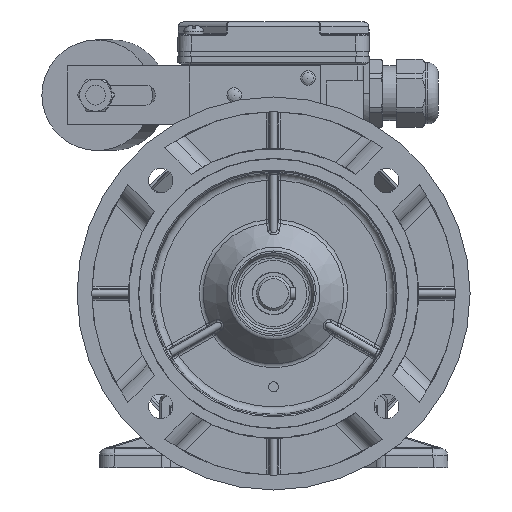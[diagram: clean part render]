
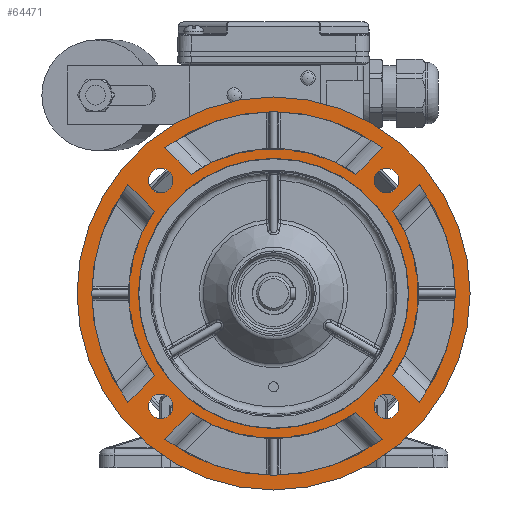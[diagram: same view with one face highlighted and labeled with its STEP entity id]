
A CAD part, front view. The second image highlights one B-rep face of the part: STEP entity #64471.
In plain terms, the highlighted planar face has unit normal (0, -1, 0).
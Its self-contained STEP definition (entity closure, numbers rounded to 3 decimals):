
#2419=CIRCLE('',#68260,59.);
#2420=CIRCLE('',#68263,74.);
#2421=CIRCLE('',#68266,59.);
#2422=CIRCLE('',#68269,74.);
#2423=CIRCLE('',#68271,55.);
#2424=CIRCLE('',#68274,59.);
#2425=CIRCLE('',#68277,74.);
#2426=CIRCLE('',#68279,59.);
#2427=CIRCLE('',#68282,74.);
#2445=CIRCLE('',#68348,80.);
#2446=CIRCLE('',#68350,5.);
#2447=CIRCLE('',#68351,5.);
#2448=CIRCLE('',#68352,5.);
#2449=CIRCLE('',#68353,5.);
#5630=LINE('',#96945,#8617);
#5631=LINE('',#96959,#8618);
#5632=LINE('',#96968,#8619);
#5633=LINE('',#96987,#8620);
#5634=LINE('',#96999,#8621);
#5635=LINE('',#97013,#8622);
#5636=LINE('',#97039,#8623);
#5637=LINE('',#97048,#8624);
#8617=VECTOR('',#77261,1000.);
#8618=VECTOR('',#77268,1000.);
#8619=VECTOR('',#77275,1000.);
#8620=VECTOR('',#77282,1000.);
#8621=VECTOR('',#77293,1000.);
#8622=VECTOR('',#77300,1000.);
#8623=VECTOR('',#77311,1000.);
#8624=VECTOR('',#77318,1000.);
#10525=PLANE('',#68349);
#19005=ORIENTED_EDGE('',*,*,#28819,.F.);
#19006=ORIENTED_EDGE('',*,*,#28820,.F.);
#19007=ORIENTED_EDGE('',*,*,#28821,.F.);
#19008=ORIENTED_EDGE('',*,*,#28822,.F.);
#19009=ORIENTED_EDGE('',*,*,#28736,.F.);
#19010=ORIENTED_EDGE('',*,*,#28734,.F.);
#19011=ORIENTED_EDGE('',*,*,#28733,.T.);
#19012=ORIENTED_EDGE('',*,*,#28730,.T.);
#19013=ORIENTED_EDGE('',*,*,#28728,.F.);
#19014=ORIENTED_EDGE('',*,*,#28726,.T.);
#19015=ORIENTED_EDGE('',*,*,#28724,.T.);
#19016=ORIENTED_EDGE('',*,*,#28722,.F.);
#19017=ORIENTED_EDGE('',*,*,#28720,.F.);
#19018=ORIENTED_EDGE('',*,*,#28719,.F.);
#19019=ORIENTED_EDGE('',*,*,#28718,.T.);
#19020=ORIENTED_EDGE('',*,*,#28715,.T.);
#19021=ORIENTED_EDGE('',*,*,#28713,.F.);
#19022=ORIENTED_EDGE('',*,*,#28711,.F.);
#19023=ORIENTED_EDGE('',*,*,#28710,.T.);
#19024=ORIENTED_EDGE('',*,*,#28707,.T.);
#19025=ORIENTED_EDGE('',*,*,#28706,.F.);
#19026=ORIENTED_EDGE('',*,*,#28818,.T.);
#28706=EDGE_CURVE('',#34254,#34253,#5630,.T.);
#28707=EDGE_CURVE('',#34255,#34253,#2419,.T.);
#28710=EDGE_CURVE('',#34256,#34255,#5631,.T.);
#28711=EDGE_CURVE('',#34256,#34254,#2420,.T.);
#28713=EDGE_CURVE('',#34257,#34258,#5632,.T.);
#28715=EDGE_CURVE('',#34259,#34258,#2421,.T.);
#28718=EDGE_CURVE('',#34260,#34259,#5633,.T.);
#28719=EDGE_CURVE('',#34260,#34257,#2422,.T.);
#28720=EDGE_CURVE('',#34261,#34261,#2423,.T.);
#28722=EDGE_CURVE('',#34262,#34263,#5634,.T.);
#28724=EDGE_CURVE('',#34264,#34263,#2424,.T.);
#28726=EDGE_CURVE('',#34265,#34264,#5635,.T.);
#28728=EDGE_CURVE('',#34265,#34262,#2425,.T.);
#28730=EDGE_CURVE('',#34267,#34266,#2426,.T.);
#28733=EDGE_CURVE('',#34268,#34267,#5636,.T.);
#28734=EDGE_CURVE('',#34268,#34269,#2427,.T.);
#28736=EDGE_CURVE('',#34269,#34266,#5637,.T.);
#28818=EDGE_CURVE('',#34327,#34327,#2445,.T.);
#28819=EDGE_CURVE('',#34328,#34328,#2446,.T.);
#28820=EDGE_CURVE('',#34329,#34329,#2447,.T.);
#28821=EDGE_CURVE('',#34330,#34330,#2448,.T.);
#28822=EDGE_CURVE('',#34331,#34331,#2449,.T.);
#34253=VERTEX_POINT('',#96939);
#34254=VERTEX_POINT('',#96944);
#34255=VERTEX_POINT('',#96948);
#34256=VERTEX_POINT('',#96958);
#34257=VERTEX_POINT('',#96967);
#34258=VERTEX_POINT('',#96969);
#34259=VERTEX_POINT('',#96976);
#34260=VERTEX_POINT('',#96986);
#34261=VERTEX_POINT('',#96992);
#34262=VERTEX_POINT('',#96998);
#34263=VERTEX_POINT('',#97000);
#34264=VERTEX_POINT('',#97007);
#34265=VERTEX_POINT('',#97014);
#34266=VERTEX_POINT('',#97026);
#34267=VERTEX_POINT('',#97028);
#34268=VERTEX_POINT('',#97038);
#34269=VERTEX_POINT('',#97042);
#34327=VERTEX_POINT('',#97341);
#34328=VERTEX_POINT('',#97344);
#34329=VERTEX_POINT('',#97346);
#34330=VERTEX_POINT('',#97348);
#34331=VERTEX_POINT('',#97350);
#39585=EDGE_LOOP('',(#19005));
#39586=EDGE_LOOP('',(#19006));
#39587=EDGE_LOOP('',(#19007));
#39588=EDGE_LOOP('',(#19008));
#39589=EDGE_LOOP('',(#19009,#19010,#19011,#19012));
#39590=EDGE_LOOP('',(#19013,#19014,#19015,#19016));
#39591=EDGE_LOOP('',(#19017));
#39592=EDGE_LOOP('',(#19018,#19019,#19020,#19021));
#39593=EDGE_LOOP('',(#19022,#19023,#19024,#19025));
#39594=EDGE_LOOP('',(#19026));
#42747=FACE_BOUND('',#39585,.T.);
#42748=FACE_BOUND('',#39586,.T.);
#42749=FACE_BOUND('',#39587,.T.);
#42750=FACE_BOUND('',#39588,.T.);
#42751=FACE_BOUND('',#39589,.T.);
#42752=FACE_BOUND('',#39590,.T.);
#42753=FACE_BOUND('',#39591,.T.);
#42754=FACE_BOUND('',#39592,.T.);
#42755=FACE_BOUND('',#39593,.T.);
#42756=FACE_BOUND('',#39594,.T.);
#64471=ADVANCED_FACE('',(#42747,#42748,#42749,#42750,#42751,#42752,#42753,
#42754,#42755,#42756),#10525,.F.);
#68260=AXIS2_PLACEMENT_3D('',#96947,#77264,#77265);
#68263=AXIS2_PLACEMENT_3D('',#96961,#77271,#77272);
#68266=AXIS2_PLACEMENT_3D('',#96975,#77278,#77279);
#68269=AXIS2_PLACEMENT_3D('',#96989,#77285,#77286);
#68271=AXIS2_PLACEMENT_3D('',#96991,#77289,#77290);
#68274=AXIS2_PLACEMENT_3D('',#97006,#77296,#77297);
#68277=AXIS2_PLACEMENT_3D('',#97020,#77303,#77304);
#68279=AXIS2_PLACEMENT_3D('',#97027,#77307,#77308);
#68282=AXIS2_PLACEMENT_3D('',#97041,#77314,#77315);
#68348=AXIS2_PLACEMENT_3D('',#97340,#77473,#77474);
#68349=AXIS2_PLACEMENT_3D('',#97342,#77475,#77476);
#68350=AXIS2_PLACEMENT_3D('',#97343,#77477,#77478);
#68351=AXIS2_PLACEMENT_3D('',#97345,#77479,#77480);
#68352=AXIS2_PLACEMENT_3D('',#97347,#77481,#77482);
#68353=AXIS2_PLACEMENT_3D('',#97349,#77483,#77484);
#77261=DIRECTION('',(-0.707,0.,-0.707));
#77264=DIRECTION('',(0.,-1.,0.));
#77265=DIRECTION('',(0.,0.,-1.));
#77268=DIRECTION('',(-0.707,0.,0.707));
#77271=DIRECTION('',(0.,-1.,0.));
#77272=DIRECTION('',(0.,0.,-1.));
#77275=DIRECTION('',(-0.707,0.,0.707));
#77278=DIRECTION('',(0.,-1.,0.));
#77279=DIRECTION('',(0.,0.,-1.));
#77282=DIRECTION('',(0.707,0.,0.707));
#77285=DIRECTION('',(0.,-1.,0.));
#77286=DIRECTION('',(0.,0.,-1.));
#77289=DIRECTION('',(0.,-1.,0.));
#77290=DIRECTION('',(0.,0.,-1.));
#77293=DIRECTION('',(0.707,0.,0.707));
#77296=DIRECTION('',(0.,-1.,0.));
#77297=DIRECTION('',(0.,0.,-1.));
#77300=DIRECTION('',(0.707,0.,-0.707));
#77303=DIRECTION('',(0.,-1.,0.));
#77304=DIRECTION('',(0.,0.,-1.));
#77307=DIRECTION('',(0.,-1.,0.));
#77308=DIRECTION('',(0.,0.,-1.));
#77311=DIRECTION('',(-0.707,0.,-0.707));
#77314=DIRECTION('',(0.,-1.,0.));
#77315=DIRECTION('',(0.,0.,-1.));
#77318=DIRECTION('',(0.707,0.,-0.707));
#77473=DIRECTION('',(0.,-1.,0.));
#77474=DIRECTION('',(0.,0.,-1.));
#77475=DIRECTION('',(0.,1.,0.));
#77476=DIRECTION('',(0.,0.,1.));
#77477=DIRECTION('',(0.,-1.,0.));
#77478=DIRECTION('',(1.,0.,0.));
#77479=DIRECTION('',(0.,-1.,0.));
#77480=DIRECTION('',(1.,0.,0.));
#77481=DIRECTION('',(0.,-1.,0.));
#77482=DIRECTION('',(1.,0.,0.));
#77483=DIRECTION('',(0.,-1.,0.));
#77484=DIRECTION('',(1.,0.,0.));
#96939=CARTESIAN_POINT('',(48.549,-90.,33.526));
#96944=CARTESIAN_POINT('',(59.295,-90.,44.273));
#96945=CARTESIAN_POINT('',(59.837,-90.,44.815));
#96947=CARTESIAN_POINT('',(0.,-90.,0.));
#96948=CARTESIAN_POINT('',(48.549,-90.,-33.526));
#96958=CARTESIAN_POINT('',(59.295,-90.,-44.273));
#96959=CARTESIAN_POINT('',(59.837,-90.,-44.815));
#96961=CARTESIAN_POINT('',(0.,-90.,0.));
#96967=CARTESIAN_POINT('',(44.273,-90.,-59.295));
#96968=CARTESIAN_POINT('',(44.815,-90.,-59.837));
#96969=CARTESIAN_POINT('',(33.526,-90.,-48.549));
#96975=CARTESIAN_POINT('',(0.,-90.,0.));
#96976=CARTESIAN_POINT('',(-33.526,-90.,-48.549));
#96986=CARTESIAN_POINT('',(-44.273,-90.,-59.295));
#96987=CARTESIAN_POINT('',(-44.815,-90.,-59.837));
#96989=CARTESIAN_POINT('',(0.,-90.,0.));
#96991=CARTESIAN_POINT('',(0.,-90.,0.));
#96992=CARTESIAN_POINT('',(0.,-90.,-55.));
#96998=CARTESIAN_POINT('',(-59.295,-90.,-44.273));
#96999=CARTESIAN_POINT('',(-59.837,-90.,-44.815));
#97000=CARTESIAN_POINT('',(-48.549,-90.,-33.526));
#97006=CARTESIAN_POINT('',(0.,-90.,0.));
#97007=CARTESIAN_POINT('',(-48.549,-90.,33.526));
#97013=CARTESIAN_POINT('',(-59.837,-90.,44.815));
#97014=CARTESIAN_POINT('',(-59.295,-90.,44.273));
#97020=CARTESIAN_POINT('',(0.,-90.,0.));
#97026=CARTESIAN_POINT('',(-33.526,-90.,48.549));
#97027=CARTESIAN_POINT('',(0.,-90.,0.));
#97028=CARTESIAN_POINT('',(33.526,-90.,48.549));
#97038=CARTESIAN_POINT('',(44.273,-90.,59.295));
#97039=CARTESIAN_POINT('',(44.815,-90.,59.837));
#97041=CARTESIAN_POINT('',(0.,-90.,0.));
#97042=CARTESIAN_POINT('',(-44.273,-90.,59.295));
#97048=CARTESIAN_POINT('',(-44.815,-90.,59.837));
#97340=CARTESIAN_POINT('',(0.,-90.,0.));
#97341=CARTESIAN_POINT('',(0.,-90.,-80.));
#97342=CARTESIAN_POINT('',(0.,-90.,55.));
#97343=CARTESIAN_POINT('',(45.962,-90.,45.962));
#97344=CARTESIAN_POINT('',(50.962,-90.,45.962));
#97345=CARTESIAN_POINT('',(45.962,-90.,-45.962));
#97346=CARTESIAN_POINT('',(50.962,-90.,-45.962));
#97347=CARTESIAN_POINT('',(-45.962,-90.,-45.962));
#97348=CARTESIAN_POINT('',(-40.962,-90.,-45.962));
#97349=CARTESIAN_POINT('',(-45.962,-90.,45.962));
#97350=CARTESIAN_POINT('',(-40.962,-90.,45.962));
